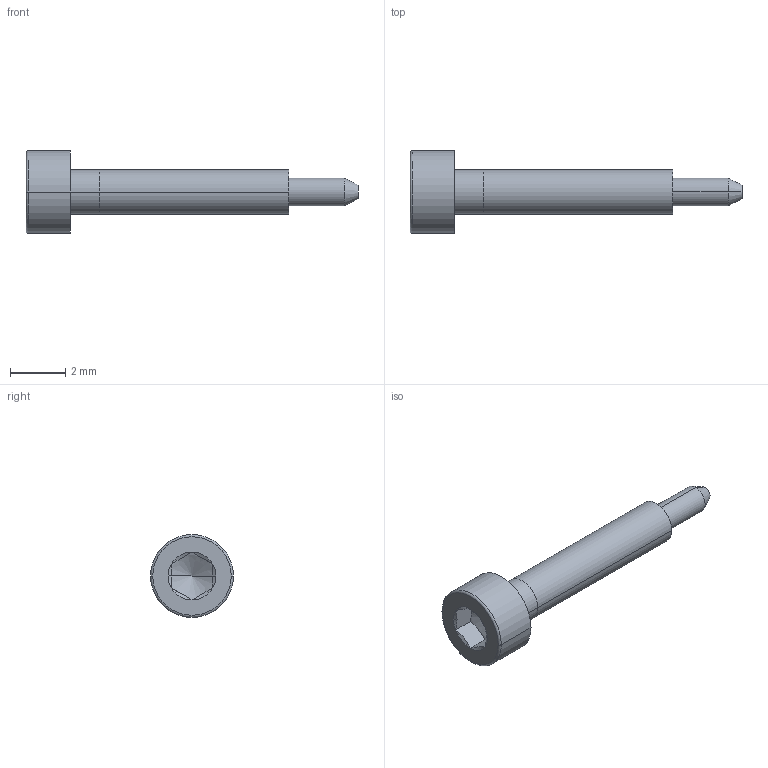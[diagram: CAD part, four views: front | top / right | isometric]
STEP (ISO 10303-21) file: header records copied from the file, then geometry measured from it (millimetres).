
FILE_DESCRIPTION(/* description */ ('(C) Elphel, Inc. 2011. Licensed under CERN OHL v.1.1 or later, see http://ohwr.org/cernohl'),/* implementation_level */ '2;1');
FILE_NAME(/* name */ '0353-23-01',/* time_stamp */ '2012-01-05T11:58:25-07:00',/* author */ (''),/* organization */ ('Elphel, Inc'),/* preprocessor_version */ 'ST-DEVELOPER v12',/* originating_system */ 'VariCAD 2010-3.03; kernel version (20100102)',/* authorisation */ '');
FILE_SCHEMA (('AUTOMOTIVE_DESIGN'));
Length unit declared in the file: millimetre
Products named in the file (1): Part
Bounding box: 12 x 3 x 3 mm (x, y, z)
Volume: 27.2 mm3; surface area: 134 mm2
Topology: 2 solids, 2 shells, 39 faces, 80 edges, 47 vertices
Faces by surface type: plane 13, cylinder 12, cone 12, torus 2
Entity records: 1374 total; most frequent: CARTESIAN_POINT 247, DIRECTION 184, ORIENTED_EDGE 156, AXIS2_PLACEMENT_3D 80, EDGE_CURVE 78, VERTEX_POINT 47, EDGE_LOOP 45, PRESENTATION_STYLE_ASSIGNMENT 41
